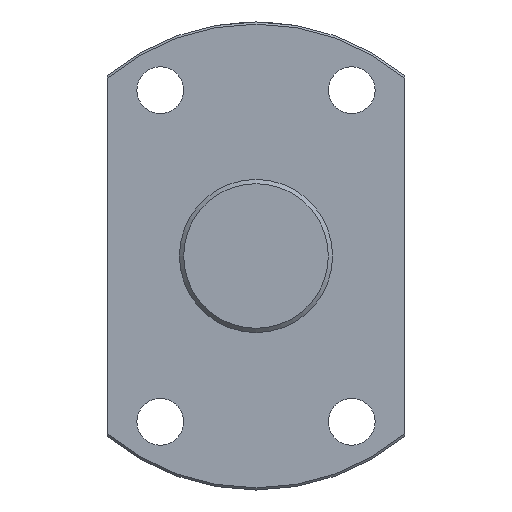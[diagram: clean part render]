
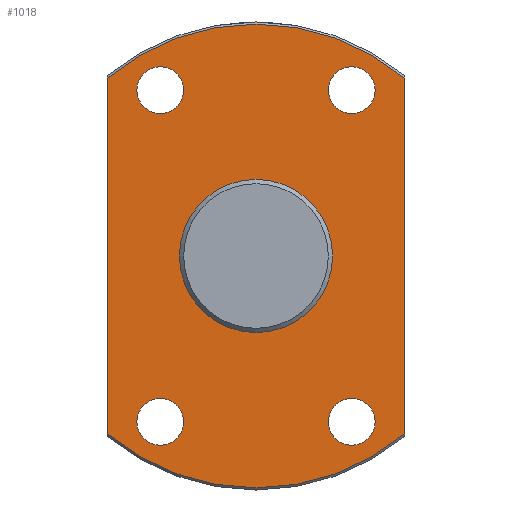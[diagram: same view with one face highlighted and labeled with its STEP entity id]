
A CAD part, left-side view. The second image highlights one B-rep face of the part: STEP entity #1018.
In plain terms, the highlighted planar face has unit normal (-1, 0, 0).
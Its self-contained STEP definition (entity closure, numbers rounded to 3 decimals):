
#315=CARTESIAN_POINT('',(447.691,-35.,41.776));
#316=VERTEX_POINT('',#315);
#341=CARTESIAN_POINT('',(447.691,35.,41.776));
#342=VERTEX_POINT('',#341);
#356=CARTESIAN_POINT('',(447.691,0.0,0.0));
#357=DIRECTION('',(1.0,0.0,0.0));
#358=DIRECTION('',(0.0,1.0,0.0));
#359=AXIS2_PLACEMENT_3D('',#356,#357,#358);
#360=CIRCLE('',#359,54.5);
#361=EDGE_CURVE('',#342,#316,#360,.T.);
#478=CARTESIAN_POINT('',(447.691,-35.,-41.776));
#479=VERTEX_POINT('',#478);
#480=CARTESIAN_POINT('',(447.691,-35.,41.776));
#481=DIRECTION('',(0.0,0.0,-1.0));
#482=VECTOR('',#481,83.552);
#483=LINE('',#480,#482);
#484=EDGE_CURVE('',#316,#479,#483,.T.);
#560=CARTESIAN_POINT('',(447.691,35.,-41.776));
#561=VERTEX_POINT('',#560);
#585=CARTESIAN_POINT('',(447.691,0.0,0.0));
#586=DIRECTION('',(1.0,0.0,0.0));
#587=DIRECTION('',(0.0,1.0,0.0));
#588=AXIS2_PLACEMENT_3D('',#585,#586,#587);
#589=CIRCLE('',#588,54.5);
#590=EDGE_CURVE('',#479,#561,#589,.T.);
#671=CARTESIAN_POINT('',(447.691,35.,-41.776));
#672=DIRECTION('',(0.0,0.0,1.0));
#673=VECTOR('',#672,83.552);
#674=LINE('',#671,#673);
#675=EDGE_CURVE('',#561,#342,#674,.T.);
#900=CARTESIAN_POINT('',(447.691,18.0,0.));
#901=VERTEX_POINT('',#900);
#902=CARTESIAN_POINT('',(447.691,0.0,0.0));
#903=DIRECTION('',(1.0,0.0,0.0));
#904=DIRECTION('',(0.0,-1.0,0.0));
#905=AXIS2_PLACEMENT_3D('',#902,#903,#904);
#906=CIRCLE('',#905,18.0);
#907=EDGE_CURVE('',#901,#901,#906,.T.);
#920=CARTESIAN_POINT('',(447.691,28.,-38.971));
#921=VERTEX_POINT('',#920);
#922=CARTESIAN_POINT('',(447.691,22.5,-38.971));
#923=DIRECTION('',(1.0,0.0,0.0));
#924=DIRECTION('',(0.0,1.0,0.0));
#925=AXIS2_PLACEMENT_3D('',#922,#923,#924);
#926=CIRCLE('',#925,5.5);
#927=EDGE_CURVE('',#921,#921,#926,.T.);
#940=CARTESIAN_POINT('',(447.691,-17.,38.971));
#941=VERTEX_POINT('',#940);
#942=CARTESIAN_POINT('',(447.691,-22.5,38.971));
#943=DIRECTION('',(1.0,0.0,0.0));
#944=DIRECTION('',(0.0,1.0,0.0));
#945=AXIS2_PLACEMENT_3D('',#942,#943,#944);
#946=CIRCLE('',#945,5.5);
#947=EDGE_CURVE('',#941,#941,#946,.T.);
#960=CARTESIAN_POINT('',(447.691,28.,38.971));
#961=VERTEX_POINT('',#960);
#962=CARTESIAN_POINT('',(447.691,22.5,38.971));
#963=DIRECTION('',(1.0,0.0,0.0));
#964=DIRECTION('',(0.0,1.0,0.0));
#965=AXIS2_PLACEMENT_3D('',#962,#963,#964);
#966=CIRCLE('',#965,5.5);
#967=EDGE_CURVE('',#961,#961,#966,.T.);
#980=CARTESIAN_POINT('',(447.691,-17.,-38.971));
#981=VERTEX_POINT('',#980);
#982=CARTESIAN_POINT('',(447.691,-22.5,-38.971));
#983=DIRECTION('',(1.0,0.0,0.0));
#984=DIRECTION('',(0.0,1.0,0.0));
#985=AXIS2_PLACEMENT_3D('',#982,#983,#984);
#986=CIRCLE('',#985,5.5);
#987=EDGE_CURVE('',#981,#981,#986,.T.);
#992=CARTESIAN_POINT('',(447.691,0.0,0.0));
#993=DIRECTION('',(-1.0,0.0,0.0));
#994=DIRECTION('',(0.0,0.0,1.0));
#995=AXIS2_PLACEMENT_3D('',#992,#993,#994);
#996=PLANE('',#995);
#997=ORIENTED_EDGE('',*,*,#361,.F.);
#998=ORIENTED_EDGE('',*,*,#675,.F.);
#999=ORIENTED_EDGE('',*,*,#590,.F.);
#1000=ORIENTED_EDGE('',*,*,#484,.F.);
#1001=EDGE_LOOP('',(#997,#998,#999,#1000));
#1002=FACE_OUTER_BOUND('',#1001,.T.);
#1003=ORIENTED_EDGE('',*,*,#907,.T.);
#1004=EDGE_LOOP('',(#1003));
#1005=FACE_BOUND('',#1004,.T.);
#1006=ORIENTED_EDGE('',*,*,#927,.T.);
#1007=EDGE_LOOP('',(#1006));
#1008=FACE_BOUND('',#1007,.T.);
#1009=ORIENTED_EDGE('',*,*,#947,.T.);
#1010=EDGE_LOOP('',(#1009));
#1011=FACE_BOUND('',#1010,.T.);
#1012=ORIENTED_EDGE('',*,*,#967,.T.);
#1013=EDGE_LOOP('',(#1012));
#1014=FACE_BOUND('',#1013,.T.);
#1015=ORIENTED_EDGE('',*,*,#987,.T.);
#1016=EDGE_LOOP('',(#1015));
#1017=FACE_BOUND('',#1016,.T.);
#1018=ADVANCED_FACE('',(#1002,#1005,#1008,#1011,#1014,#1017),#996,.T.);
